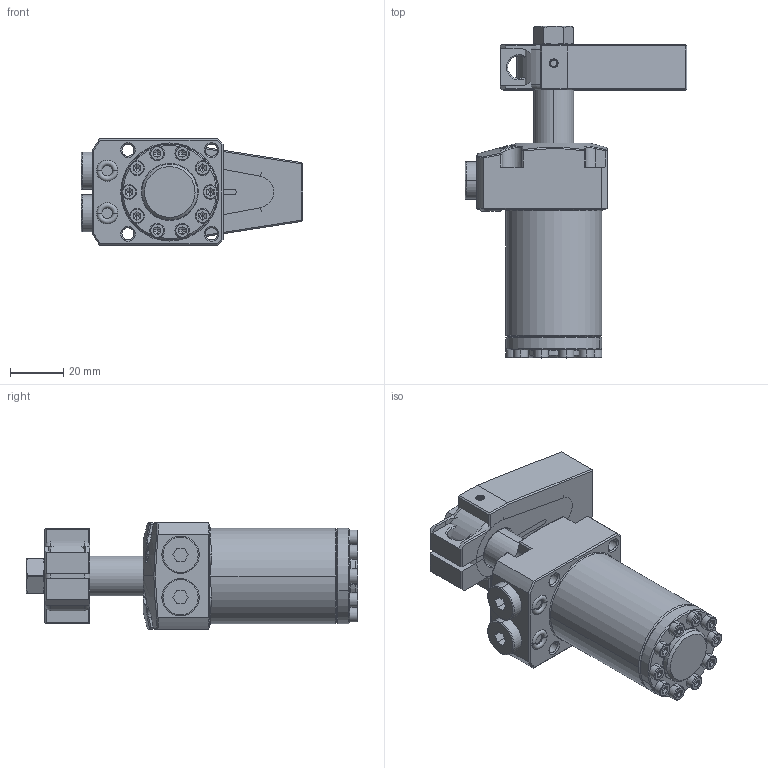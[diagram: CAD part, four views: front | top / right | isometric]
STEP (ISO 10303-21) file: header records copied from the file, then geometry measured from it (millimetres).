
FILE_DESCRIPTION((''),'2;1');
FILE_NAME('SIMP_GENERIC_SWING_CYD__ASM','2023-04-16T11:23:45',('Design 2'),(''),'CREO PARAMETRIC BY PTC INC, 2020053','CREO PARAMETRIC BY PTC INC, 2020053','');
FILE_SCHEMA(('CONFIG_CONTROL_DESIGN'));
Length unit declared in the file: millimetre
Products named in the file (16): BODY__; BODY_TOP_FLG___ASM; PISTON__; PISTON_ASM___ASM; SWINGER_ARM__; SWINGER_ARM_ASM___ASM; CLAMP__; HEXAGON_NUT__; CLAMP_2ND_TYPE__; 1_1_2_-_; 2_1_2_-_; HALDER_SEALING_PLUG_228800004_-_ASM; ISHCS03X10; ORING-5X1-5__; G-1-8-CLOSE_PLUGE; SIMP_GENERIC_SWING_CYD__ASM
Assembly tree (27 placements, depth 3):
  SIMP_GENERIC_SWING_CYD__ASM
    BODY_TOP_FLG___ASM
      BODY__
    PISTON_ASM___ASM
      PISTON__
    SWINGER_ARM_ASM___ASM
      SWINGER_ARM__
    CLAMP__
    HEXAGON_NUT__
    CLAMP_2ND_TYPE__
    HALDER_SEALING_PLUG_228800004_-_ASM  x2
      1_1_2_-_
      2_1_2_-_
    ISHCS03X10  x10
    ORING-5X1-5__  x2
    G-1-8-CLOSE_PLUGE  x2
Bounding box: 83.3 x 124.6 x 40 mm (x, y, z)
Volume: 145765.1 mm3; surface area: 45527.1 mm2
Topology: 24 solids, 24 shells, 1023 faces, 2399 edges, 1421 vertices
Faces by surface type: cylinder 337, plane 302, cone 249, bspline 79, torus 50, sphere 6
Entity records: 33109 total; most frequent: CARTESIAN_POINT 17614, ORIENTED_EDGE 3290, DIRECTION 2936, EDGE_CURVE 1645, AXIS2_PLACEMENT_3D 1106, VERTEX_POINT 1007, EDGE_LOOP 732, VECTOR 724
